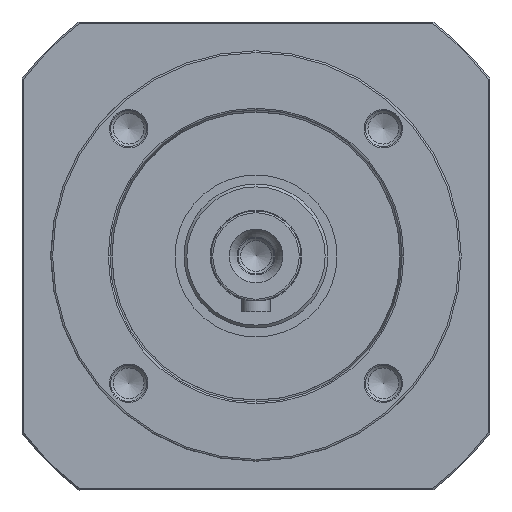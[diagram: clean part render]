
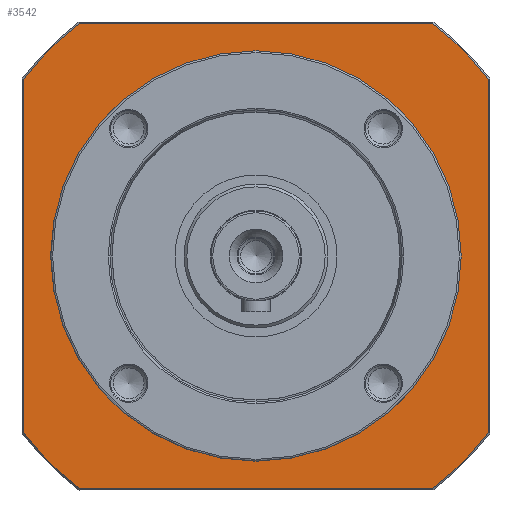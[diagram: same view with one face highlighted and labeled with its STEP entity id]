
A CAD part, left-side view. The second image highlights one B-rep face of the part: STEP entity #3542.
In plain terms, the highlighted planar face has unit normal (-1, 0, 0).
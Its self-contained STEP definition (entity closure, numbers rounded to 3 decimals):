
#97=LINE('',#6675,#149);
#98=LINE('',#6679,#150);
#99=LINE('',#6683,#151);
#100=LINE('',#6686,#152);
#149=VECTOR('',#5036,98.061);
#150=VECTOR('',#5039,98.061);
#151=VECTOR('',#5042,98.061);
#152=VECTOR('',#5045,98.061);
#616=FACE_BOUND('',#1359,.T.);
#884=FACE_OUTER_BOUND('',#1358,.T.);
#1358=EDGE_LOOP('',(#3015,#3016,#3017,#3018,#3019,#3020,#3021,#3022));
#1359=EDGE_LOOP('',(#3023));
#1696=CIRCLE('',#4033,48.5);
#1697=CIRCLE('',#4035,81.1);
#1698=CIRCLE('',#4036,81.1);
#1699=CIRCLE('',#4037,81.1);
#1700=CIRCLE('',#4038,81.1);
#2014=VERTEX_POINT('',#6668);
#2015=VERTEX_POINT('',#6671);
#2016=VERTEX_POINT('',#6672);
#2017=VERTEX_POINT('',#6674);
#2018=VERTEX_POINT('',#6676);
#2019=VERTEX_POINT('',#6678);
#2020=VERTEX_POINT('',#6680);
#2021=VERTEX_POINT('',#6682);
#2022=VERTEX_POINT('',#6684);
#2376=EDGE_CURVE('',#2014,#2014,#1696,.T.);
#2377=EDGE_CURVE('',#2015,#2016,#1697,.T.);
#2378=EDGE_CURVE('',#2017,#2015,#97,.T.);
#2379=EDGE_CURVE('',#2018,#2017,#1698,.T.);
#2380=EDGE_CURVE('',#2019,#2018,#98,.T.);
#2381=EDGE_CURVE('',#2020,#2019,#1699,.T.);
#2382=EDGE_CURVE('',#2021,#2020,#99,.T.);
#2383=EDGE_CURVE('',#2022,#2021,#1700,.T.);
#2384=EDGE_CURVE('',#2016,#2022,#100,.T.);
#3015=ORIENTED_EDGE('',*,*,#2377,.F.);
#3016=ORIENTED_EDGE('',*,*,#2378,.F.);
#3017=ORIENTED_EDGE('',*,*,#2379,.F.);
#3018=ORIENTED_EDGE('',*,*,#2380,.F.);
#3019=ORIENTED_EDGE('',*,*,#2381,.F.);
#3020=ORIENTED_EDGE('',*,*,#2382,.F.);
#3021=ORIENTED_EDGE('',*,*,#2383,.F.);
#3022=ORIENTED_EDGE('',*,*,#2384,.F.);
#3023=ORIENTED_EDGE('',*,*,#2376,.F.);
#3303=PLANE('',#4034);
#3542=ADVANCED_FACE('',(#884,#616),#3303,.F.);
#4033=AXIS2_PLACEMENT_3D('',#6669,#5030,#5031);
#4034=AXIS2_PLACEMENT_3D('',#6670,#5032,#5033);
#4035=AXIS2_PLACEMENT_3D('',#6673,#5034,#5035);
#4036=AXIS2_PLACEMENT_3D('',#6677,#5037,#5038);
#4037=AXIS2_PLACEMENT_3D('',#6681,#5040,#5041);
#4038=AXIS2_PLACEMENT_3D('',#6685,#5043,#5044);
#5030=DIRECTION('center_axis',(-1.,0.,0.));
#5031=DIRECTION('ref_axis',(0.,0.,1.));
#5032=DIRECTION('center_axis',(1.,0.,0.));
#5033=DIRECTION('ref_axis',(0.,0.,-1.));
#5034=DIRECTION('center_axis',(1.,0.,0.));
#5035=DIRECTION('ref_axis',(0.,0.797,0.605));
#5036=DIRECTION('',(0.,0.,1.));
#5037=DIRECTION('center_axis',(1.,0.,0.));
#5038=DIRECTION('ref_axis',(0.,0.605,-0.797));
#5039=DIRECTION('',(0.,1.,0.));
#5040=DIRECTION('center_axis',(1.,0.,0.));
#5041=DIRECTION('ref_axis',(0.,-0.797,-0.605));
#5042=DIRECTION('',(0.,0.,-1.));
#5043=DIRECTION('center_axis',(1.,0.,0.));
#5044=DIRECTION('ref_axis',(0.,-0.605,0.797));
#5045=DIRECTION('',(0.,-1.,0.));
#6668=CARTESIAN_POINT('',(111.,0.,-48.5));
#6669=CARTESIAN_POINT('Origin',(111.,0.,0.));
#6670=CARTESIAN_POINT('Origin',(111.,0.,0.));
#6671=CARTESIAN_POINT('',(111.,64.6,49.03));
#6672=CARTESIAN_POINT('',(111.,49.03,64.6));
#6673=CARTESIAN_POINT('Origin',(111.,0.,0.));
#6674=CARTESIAN_POINT('',(111.,64.6,-49.03));
#6675=CARTESIAN_POINT('',(111.,64.6,0.));
#6676=CARTESIAN_POINT('',(111.,49.03,-64.6));
#6677=CARTESIAN_POINT('Origin',(111.,0.,0.));
#6678=CARTESIAN_POINT('',(111.,-49.031,-64.6));
#6679=CARTESIAN_POINT('',(111.,0.,-64.6));
#6680=CARTESIAN_POINT('',(111.,-64.6,-49.031));
#6681=CARTESIAN_POINT('Origin',(111.,0.,0.));
#6682=CARTESIAN_POINT('',(111.,-64.6,49.031));
#6683=CARTESIAN_POINT('',(111.,-64.6,0.));
#6684=CARTESIAN_POINT('',(111.,-49.031,64.6));
#6685=CARTESIAN_POINT('Origin',(111.,0.,0.));
#6686=CARTESIAN_POINT('',(111.,0.,64.6));
